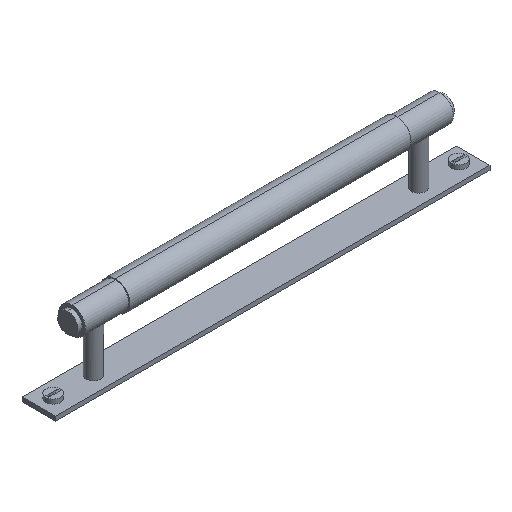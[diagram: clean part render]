
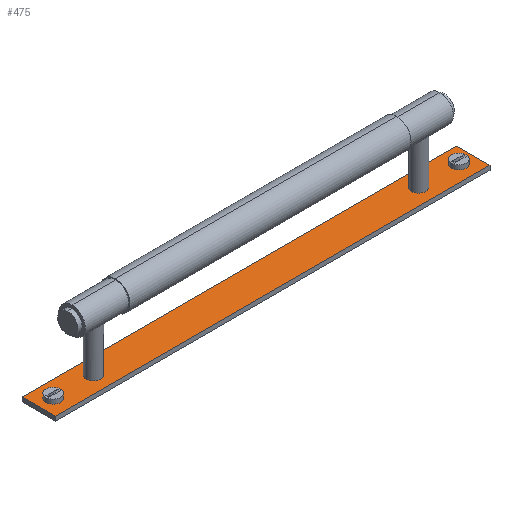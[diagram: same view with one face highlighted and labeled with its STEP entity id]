
A CAD part, isometric view. The second image highlights one B-rep face of the part: STEP entity #475.
In plain terms, the highlighted planar face has unit normal (0, 0, 1).
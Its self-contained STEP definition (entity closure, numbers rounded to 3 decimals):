
#4 = FACE_BOUND ( 'NONE', #96, .T. ) ;
#19 = CARTESIAN_POINT ( 'NONE',  ( 112.25, 0., -40. ) ) ;
#39 = DIRECTION ( 'NONE',  ( 0., 0., 1. ) ) ;
#43 = CARTESIAN_POINT ( 'NONE',  ( 150., 11.5, -40. ) ) ;
#53 = ORIENTED_EDGE ( 'NONE', *, *, #194, .T. ) ;
#77 = ORIENTED_EDGE ( 'NONE', *, *, #540, .F. ) ;
#81 = CARTESIAN_POINT ( 'NONE',  ( -150., 11.5, -40. ) ) ;
#82 = ORIENTED_EDGE ( 'NONE', *, *, #584, .F. ) ;
#96 = EDGE_LOOP ( 'NONE', ( #610, #286 ) ) ;
#107 = VERTEX_POINT ( 'NONE', #640 ) ;
#112 = EDGE_CURVE ( 'NONE', #1058, #618, #114, .T. ) ;
#114 = LINE ( 'NONE', #725, #1069 ) ;
#116 = DIRECTION ( 'NONE',  ( -1., 0., 0. ) ) ;
#192 = LINE ( 'NONE', #938, #402 ) ;
#194 = EDGE_CURVE ( 'NONE', #493, #1094, #773, .T. ) ;
#212 = CARTESIAN_POINT ( 'NONE',  ( 107.25, 0., -40. ) ) ;
#239 = CARTESIAN_POINT ( 'NONE',  ( 140., 0., -40. ) ) ;
#241 = CARTESIAN_POINT ( 'NONE',  ( -140., 0., -40. ) ) ;
#252 = VERTEX_POINT ( 'NONE', #1022 ) ;
#264 = VERTEX_POINT ( 'NONE', #844 ) ;
#270 = AXIS2_PLACEMENT_3D ( 'NONE', #239, #908, #335 ) ;
#271 = DIRECTION ( 'NONE',  ( 0., -1., 0. ) ) ;
#272 = DIRECTION ( 'NONE',  ( 0., -1., 0. ) ) ;
#273 = FACE_OUTER_BOUND ( 'NONE', #783, .T. ) ;
#279 = DIRECTION ( 'NONE',  ( 0., 0., -1. ) ) ;
#286 = ORIENTED_EDGE ( 'NONE', *, *, #769, .F. ) ;
#304 = EDGE_CURVE ( 'NONE', #884, #737, #1126, .T. ) ;
#313 = VERTEX_POINT ( 'NONE', #314 ) ;
#314 = CARTESIAN_POINT ( 'NONE',  ( 145., 0., -40. ) ) ;
#335 = DIRECTION ( 'NONE',  ( -1., 0., 0. ) ) ;
#336 = DIRECTION ( 'NONE',  ( -1., 0., 0. ) ) ;
#351 = VECTOR ( 'NONE', #782, 1000. ) ;
#365 = AXIS2_PLACEMENT_3D ( 'NONE', #854, #279, #947 ) ;
#372 = CARTESIAN_POINT ( 'NONE',  ( -112.25, 0., -40. ) ) ;
#387 = ORIENTED_EDGE ( 'NONE', *, *, #304, .T. ) ;
#402 = VECTOR ( 'NONE', #271, 1000. ) ;
#423 = DIRECTION ( 'NONE',  ( -1., 0., 0. ) ) ;
#424 = DIRECTION ( 'NONE',  ( 0., 0., 1. ) ) ;
#457 = ORIENTED_EDGE ( 'NONE', *, *, #931, .T. ) ;
#473 = DIRECTION ( 'NONE',  ( -1., 0., 0. ) ) ;
#475 = ADVANCED_FACE ( 'NONE', ( #1091, #534, #273, #4, #1031 ), #1001, .F. ) ;
#484 = VECTOR ( 'NONE', #423, 1000. ) ;
#493 = VERTEX_POINT ( 'NONE', #713 ) ;
#497 = AXIS2_PLACEMENT_3D ( 'NONE', #1077, #513, #1174 ) ;
#513 = DIRECTION ( 'NONE',  ( 0., 0., -1. ) ) ;
#534 = FACE_BOUND ( 'NONE', #903, .T. ) ;
#536 = DIRECTION ( 'NONE',  ( 0., 0., -1. ) ) ;
#540 = EDGE_CURVE ( 'NONE', #750, #313, #1232, .T. ) ;
#547 = CIRCLE ( 'NONE', #742, 5. ) ;
#553 = AXIS2_PLACEMENT_3D ( 'NONE', #241, #911, #336 ) ;
#555 = EDGE_LOOP ( 'NONE', ( #77, #82 ) ) ;
#584 = EDGE_CURVE ( 'NONE', #313, #750, #1205, .T. ) ;
#606 = CIRCLE ( 'NONE', #673, 5. ) ;
#610 = ORIENTED_EDGE ( 'NONE', *, *, #1086, .F. ) ;
#618 = VERTEX_POINT ( 'NONE', #1199 ) ;
#623 = CARTESIAN_POINT ( 'NONE',  ( -112.25, 0., -40. ) ) ;
#640 = CARTESIAN_POINT ( 'NONE',  ( 150., -11.5, -40. ) ) ;
#654 = AXIS2_PLACEMENT_3D ( 'NONE', #19, #700, #116 ) ;
#673 = AXIS2_PLACEMENT_3D ( 'NONE', #372, #1038, #473 ) ;
#700 = DIRECTION ( 'NONE',  ( 0., 0., -1. ) ) ;
#713 = CARTESIAN_POINT ( 'NONE',  ( -135., 0., -40. ) ) ;
#720 = DIRECTION ( 'NONE',  ( -1., 0., 0. ) ) ;
#725 = CARTESIAN_POINT ( 'NONE',  ( -150., -11.5, -40. ) ) ;
#737 = VERTEX_POINT ( 'NONE', #212 ) ;
#742 = AXIS2_PLACEMENT_3D ( 'NONE', #623, #39, #720 ) ;
#750 = VERTEX_POINT ( 'NONE', #890 ) ;
#769 = EDGE_CURVE ( 'NONE', #252, #264, #547, .T. ) ;
#773 = CIRCLE ( 'NONE', #553, 5. ) ;
#782 = DIRECTION ( 'NONE',  ( -1., 0., 0. ) ) ;
#783 = EDGE_LOOP ( 'NONE', ( #826, #1044, #1081, #457 ) ) ;
#820 = EDGE_CURVE ( 'NONE', #107, #618, #836, .T. ) ;
#824 = ORIENTED_EDGE ( 'NONE', *, *, #1049, .T. ) ;
#826 = ORIENTED_EDGE ( 'NONE', *, *, #112, .T. ) ;
#836 = LINE ( 'NONE', #990, #484 ) ;
#844 = CARTESIAN_POINT ( 'NONE',  ( -107.25, 0., -40. ) ) ;
#850 = VERTEX_POINT ( 'NONE', #43 ) ;
#854 = CARTESIAN_POINT ( 'NONE',  ( -140., 0., -40. ) ) ;
#873 = CARTESIAN_POINT ( 'NONE',  ( 117.25, 0., -40. ) ) ;
#884 = VERTEX_POINT ( 'NONE', #873 ) ;
#890 = CARTESIAN_POINT ( 'NONE',  ( 135., 0., -40. ) ) ;
#903 = EDGE_LOOP ( 'NONE', ( #387, #1215 ) ) ;
#908 = DIRECTION ( 'NONE',  ( 0., 0., 1. ) ) ;
#911 = DIRECTION ( 'NONE',  ( 0., 0., -1. ) ) ;
#931 = EDGE_CURVE ( 'NONE', #850, #1058, #1045, .T. ) ;
#938 = CARTESIAN_POINT ( 'NONE',  ( 150., -11.5, -40. ) ) ;
#947 = DIRECTION ( 'NONE',  ( -1., 0., 0. ) ) ;
#950 = EDGE_LOOP ( 'NONE', ( #824, #53 ) ) ;
#990 = CARTESIAN_POINT ( 'NONE',  ( 150., -11.5, -40. ) ) ;
#991 = CARTESIAN_POINT ( 'NONE',  ( 140., 0., -40. ) ) ;
#1001 = PLANE ( 'NONE',  #1125 ) ;
#1022 = CARTESIAN_POINT ( 'NONE',  ( -117.25, 0., -40. ) ) ;
#1024 = EDGE_CURVE ( 'NONE', #850, #107, #192, .T. ) ;
#1031 = FACE_BOUND ( 'NONE', #555, .T. ) ;
#1038 = DIRECTION ( 'NONE',  ( 0., 0., 1. ) ) ;
#1044 = ORIENTED_EDGE ( 'NONE', *, *, #820, .F. ) ;
#1045 = LINE ( 'NONE', #1060, #351 ) ;
#1049 = EDGE_CURVE ( 'NONE', #1094, #493, #1128, .T. ) ;
#1058 = VERTEX_POINT ( 'NONE', #81 ) ;
#1060 = CARTESIAN_POINT ( 'NONE',  ( 150., 11.5, -40. ) ) ;
#1069 = VECTOR ( 'NONE', #272, 1000. ) ;
#1077 = CARTESIAN_POINT ( 'NONE',  ( 112.25, 0., -40. ) ) ;
#1081 = ORIENTED_EDGE ( 'NONE', *, *, #1024, .F. ) ;
#1086 = EDGE_CURVE ( 'NONE', #264, #252, #606, .T. ) ;
#1088 = DIRECTION ( 'NONE',  ( -1., 0., 0. ) ) ;
#1091 = FACE_BOUND ( 'NONE', #950, .T. ) ;
#1094 = VERTEX_POINT ( 'NONE', #1237 ) ;
#1101 = CARTESIAN_POINT ( 'NONE',  ( 150., -11.5, -40. ) ) ;
#1124 = CIRCLE ( 'NONE', #654, 5. ) ;
#1125 = AXIS2_PLACEMENT_3D ( 'NONE', #1101, #536, #1200 ) ;
#1126 = CIRCLE ( 'NONE', #497, 5. ) ;
#1128 = CIRCLE ( 'NONE', #365, 5. ) ;
#1174 = DIRECTION ( 'NONE',  ( -1., 0., 0. ) ) ;
#1189 = AXIS2_PLACEMENT_3D ( 'NONE', #991, #424, #1088 ) ;
#1199 = CARTESIAN_POINT ( 'NONE',  ( -150., -11.5, -40. ) ) ;
#1200 = DIRECTION ( 'NONE',  ( -1., 0., 0. ) ) ;
#1205 = CIRCLE ( 'NONE', #270, 5. ) ;
#1215 = ORIENTED_EDGE ( 'NONE', *, *, #1251, .T. ) ;
#1232 = CIRCLE ( 'NONE', #1189, 5. ) ;
#1237 = CARTESIAN_POINT ( 'NONE',  ( -145., 0., -40. ) ) ;
#1251 = EDGE_CURVE ( 'NONE', #737, #884, #1124, .T. ) ;
